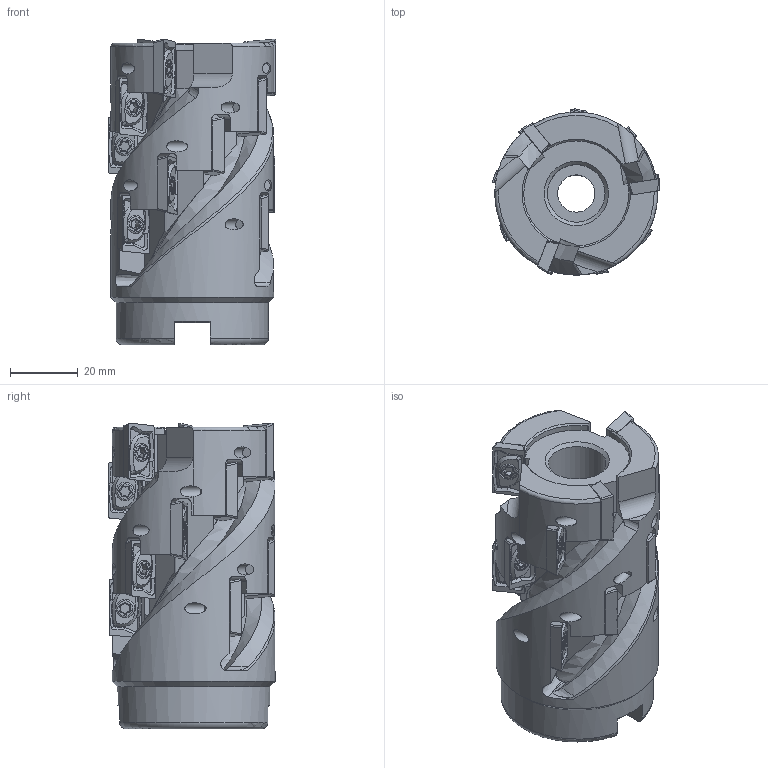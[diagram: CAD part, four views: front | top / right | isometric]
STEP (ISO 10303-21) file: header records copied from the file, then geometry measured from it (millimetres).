
FILE_DESCRIPTION(/* description */ (''),/* implementation_level */ '2;1');
FILE_NAME(/* name */ 'Z:\Проектный отдел\Даниил\EAP400R-50-22-60M-3T-15P\EAP400R-50-22-60M-3T-15P.stp',/* time_stamp */ '2023-11-27T11:58:56+03:00',/* author */ ('Арина'),/* organization */ (''),/* preprocessor_version */ 'ST-DEVELOPER v18',/* originating_system */ 'Autodesk Inventor 2020',/* authorisation */ '');
FILE_SCHEMA (('AUTOMOTIVE_DESIGN { 1 0 10303 214 3 1 1 }'));
Length unit declared in the file: millimetre
Products named in the file (4): Сборка3; Деталь3; Напайка  APKT160404; болт
Assembly tree (31 placements, depth 2):
  Сборка3
    Деталь3
    болт  x15
    Напайка  APKT160404  x15
Bounding box: 49.38 x 49 x 90.21 mm (x, y, z)
Volume: 109306.4 mm3; surface area: 37118.9 mm2
Topology: 31 solids, 31 shells, 1174 faces, 3030 edges, 1962 vertices
Faces by surface type: cylinder 351, plane 302, bspline 277, cone 221, torus 20, sphere 3
Full cylindrical faces by diameter (mm): 3.3 x15, 4 x15, 4.2 x15, 5.5 x30, 11 x1, 17 x1, 22 x1, 45 x1, 48 x1
Entity records: 13240 total; most frequent: CARTESIAN_POINT 5919, ORIENTED_EDGE 1636, DIRECTION 1280, EDGE_CURVE 818, VERTEX_POINT 548, AXIS2_PLACEMENT_3D 474, LINE 332, VECTOR 332
